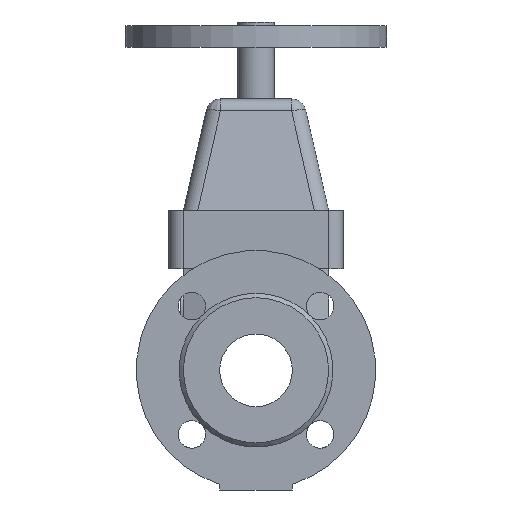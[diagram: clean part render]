
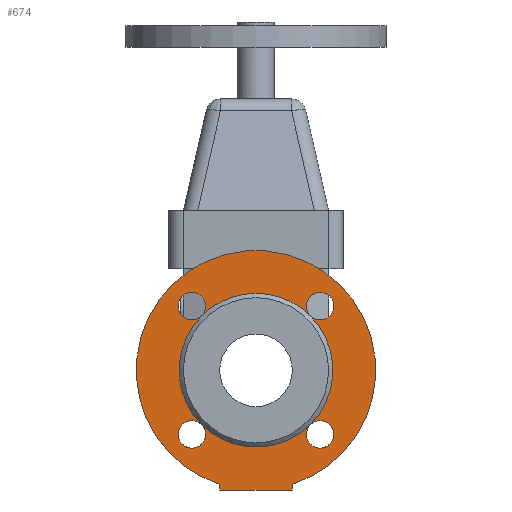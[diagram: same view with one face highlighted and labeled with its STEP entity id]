
A CAD part, front view. The second image highlights one B-rep face of the part: STEP entity #674.
In plain terms, the highlighted planar face has unit normal (0, -1, 0).
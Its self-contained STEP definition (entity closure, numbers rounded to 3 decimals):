
#674=ADVANCED_FACE('',(#1426,#1428,#1430,#1432,#1434,#1436),#1438,.T.);
#1426=FACE_BOUND('',#1427,.T.);
#1427=EDGE_LOOP('',(#2273,#2274,#2275,#2276));
#1428=FACE_BOUND('',#1429,.T.);
#1429=EDGE_LOOP('',(#2277));
#1430=FACE_BOUND('',#1431,.T.);
#1431=EDGE_LOOP('',(#2278));
#1432=FACE_BOUND('',#1433,.T.);
#1433=EDGE_LOOP('',(#2279));
#1434=FACE_BOUND('',#1435,.T.);
#1435=EDGE_LOOP('',(#2280));
#1436=FACE_BOUND('',#1437,.T.);
#1437=EDGE_LOOP('',(#2281));
#1438=PLANE('',#1439);
#1439=AXIS2_PLACEMENT_3D('',#1440,#1441,#1442);
#1440=CARTESIAN_POINT('',(0.,-122.,0.));
#1441=DIRECTION('',(0.,-1.,0.));
#1442=DIRECTION('',(0.,0.,1.));
#2273=ORIENTED_EDGE('',*,*,#2506,.T.);
#2274=ORIENTED_EDGE('',*,*,#2505,.F.);
#2275=ORIENTED_EDGE('',*,*,#2502,.F.);
#2276=ORIENTED_EDGE('',*,*,#2501,.F.);
#2277=ORIENTED_EDGE('',*,*,#2509,.T.);
#2278=ORIENTED_EDGE('',*,*,#2507,.T.);
#2279=ORIENTED_EDGE('',*,*,#2510,.T.);
#2280=ORIENTED_EDGE('',*,*,#2508,.T.);
#2281=ORIENTED_EDGE('',*,*,#2539,.T.);
#2501=EDGE_CURVE('',#2815,#2813,#2817,.T.);
#2502=EDGE_CURVE('',#2813,#2818,#2819,.T.);
#2505=EDGE_CURVE('',#2818,#2821,#2823,.T.);
#2506=EDGE_CURVE('',#2815,#2821,#2824,.T.);
#2507=EDGE_CURVE('',#2825,#2825,#2826,.F.);
#2508=EDGE_CURVE('',#2827,#2827,#2828,.F.);
#2509=EDGE_CURVE('',#2829,#2829,#2830,.F.);
#2510=EDGE_CURVE('',#2831,#2831,#2832,.F.);
#2539=EDGE_CURVE('',#2877,#2877,#2878,.T.);
#2813=VERTEX_POINT('',#3503);
#2815=VERTEX_POINT('',#3507);
#2817=CIRCLE('',#3511,82.5);
#2818=VERTEX_POINT('',#3515);
#2819=LINE('',#3516,#3517);
#2821=VERTEX_POINT('',#3522);
#2823=LINE('',#3526,#3527);
#2824=LINE('',#3529,#3530);
#2825=VERTEX_POINT('',#3532);
#2826=CIRCLE('',#3533,9.5);
#2827=VERTEX_POINT('',#3537);
#2828=CIRCLE('',#3538,9.5);
#2829=VERTEX_POINT('',#3542);
#2830=CIRCLE('',#3543,9.5);
#2831=VERTEX_POINT('',#3547);
#2832=CIRCLE('',#3548,9.5);
#2877=VERTEX_POINT('',#3661);
#2878=CIRCLE('',#3662,53.);
#3503=CARTESIAN_POINT('',(25.,-122.,-78.621));
#3507=CARTESIAN_POINT('',(-25.,-122.,-78.621));
#3511=AXIS2_PLACEMENT_3D('',#3512,#3513,#3514);
#3512=CARTESIAN_POINT('',(0.,-122.,0.));
#3513=DIRECTION('',(0.,1.,0.));
#3514=DIRECTION('',(-0.303,0.,-0.953));
#3515=CARTESIAN_POINT('',(25.,-122.,-82.5));
#3516=CARTESIAN_POINT('',(25.,-122.,-78.621));
#3517=VECTOR('',#3518,1.);
#3518=DIRECTION('',(0.,0.,-1.));
#3522=CARTESIAN_POINT('',(-25.,-122.,-82.5));
#3526=CARTESIAN_POINT('',(25.,-122.,-82.5));
#3527=VECTOR('',#3528,1.);
#3528=DIRECTION('',(-1.,0.,0.));
#3529=CARTESIAN_POINT('',(-25.,-122.,-78.621));
#3530=VECTOR('',#3531,1.);
#3531=DIRECTION('',(0.,0.,-1.));
#3532=CARTESIAN_POINT('',(-34.694,-122.,44.194));
#3533=AXIS2_PLACEMENT_3D('',#3534,#3535,#3536);
#3534=CARTESIAN_POINT('',(-44.194,-122.,44.194));
#3535=DIRECTION('',(0.,-1.,0.));
#3536=DIRECTION('',(1.,0.,0.));
#3537=CARTESIAN_POINT('',(-44.194,-122.,-34.694));
#3538=AXIS2_PLACEMENT_3D('',#3539,#3540,#3541);
#3539=CARTESIAN_POINT('',(-44.194,-122.,-44.194));
#3540=DIRECTION('',(0.,-1.,0.));
#3541=DIRECTION('',(0.,0.,1.));
#3542=CARTESIAN_POINT('',(34.694,-122.,-44.194));
#3543=AXIS2_PLACEMENT_3D('',#3544,#3545,#3546);
#3544=CARTESIAN_POINT('',(44.194,-122.,-44.194));
#3545=DIRECTION('',(0.,-1.,0.));
#3546=DIRECTION('',(-1.,0.,0.));
#3547=CARTESIAN_POINT('',(44.194,-122.,34.694));
#3548=AXIS2_PLACEMENT_3D('',#3549,#3550,#3551);
#3549=CARTESIAN_POINT('',(44.194,-122.,44.194));
#3550=DIRECTION('',(0.,-1.,0.));
#3551=DIRECTION('',(0.,0.,-1.));
#3661=CARTESIAN_POINT('',(0.,-122.,53.));
#3662=AXIS2_PLACEMENT_3D('',#3663,#3664,#3665);
#3663=CARTESIAN_POINT('',(0.,-122.,0.));
#3664=DIRECTION('',(0.,1.,0.));
#3665=DIRECTION('',(0.,0.,1.));
